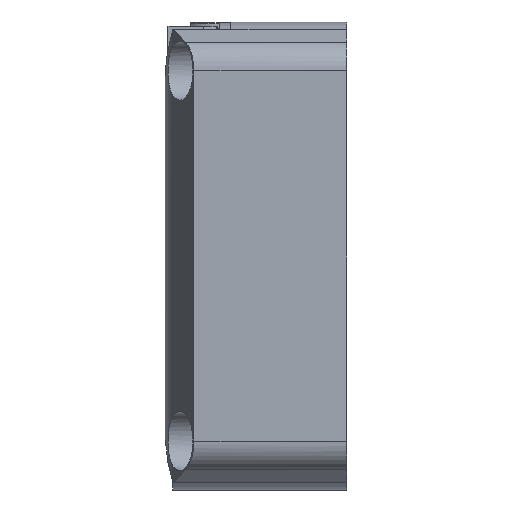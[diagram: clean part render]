
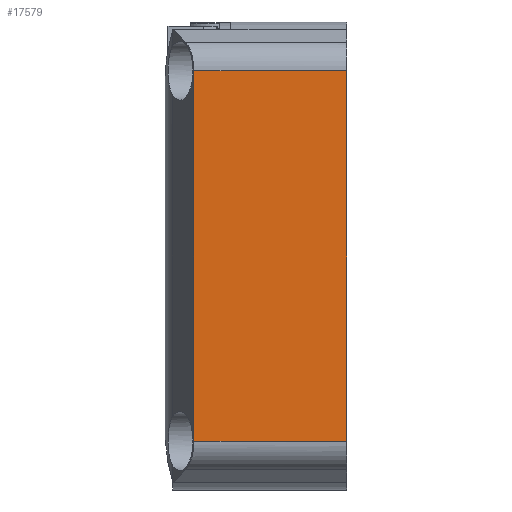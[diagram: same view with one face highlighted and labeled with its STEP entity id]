
A CAD part, left-side view. The second image highlights one B-rep face of the part: STEP entity #17579.
In plain terms, the highlighted planar face has unit normal (-1, 0, 0).
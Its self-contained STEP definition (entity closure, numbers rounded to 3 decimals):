
#4723 = DIRECTION ( 'NONE',  ( 0., 0., 1. ) ) ;
#5554 = LINE ( 'NONE', #25757, #26439 ) ;
#5884 = PLANE ( 'NONE',  #16095 ) ;
#8495 = VECTOR ( 'NONE', #19172, 1000. ) ;
#9718 = ORIENTED_EDGE ( 'NONE', *, *, #35931, .F. ) ;
#9734 = LINE ( 'NONE', #23144, #8495 ) ;
#12482 = EDGE_LOOP ( 'NONE', ( #27686, #40427, #25739, #9718 ) ) ;
#13734 = EDGE_CURVE ( 'NONE', #48487, #29598, #35512, .T. ) ;
#16095 = AXIS2_PLACEMENT_3D ( 'NONE', #21596, #49141, #25596 ) ;
#17518 = CARTESIAN_POINT ( 'NONE',  ( -17., 10.95, 13. ) ) ;
#17579 = ADVANCED_FACE ( 'NONE', ( #49753 ), #5884, .T. ) ;
#17867 = EDGE_CURVE ( 'NONE', #20073, #29598, #9734, .T. ) ;
#19172 = DIRECTION ( 'NONE',  ( 0., 0., -1. ) ) ;
#20073 = VERTEX_POINT ( 'NONE', #49781 ) ;
#21596 = CARTESIAN_POINT ( 'NONE',  ( -17., 13., -13.5 ) ) ;
#21945 = DIRECTION ( 'NONE',  ( 0., -1., 0. ) ) ;
#22600 = DIRECTION ( 'NONE',  ( 0., -1., 0. ) ) ;
#23144 = CARTESIAN_POINT ( 'NONE',  ( -17., 0., -13.5 ) ) ;
#24182 = LINE ( 'NONE', #32182, #34681 ) ;
#24436 = CARTESIAN_POINT ( 'NONE',  ( -17., 10.95, -13.5 ) ) ;
#25596 = DIRECTION ( 'NONE',  ( 0., 0., 1. ) ) ;
#25739 = ORIENTED_EDGE ( 'NONE', *, *, #17867, .F. ) ;
#25757 = CARTESIAN_POINT ( 'NONE',  ( -17., 13., 13. ) ) ;
#26439 = VECTOR ( 'NONE', #21945, 1000. ) ;
#27686 = ORIENTED_EDGE ( 'NONE', *, *, #34884, .F. ) ;
#29041 = CARTESIAN_POINT ( 'NONE',  ( -17., 0., -13.5 ) ) ;
#29598 = VERTEX_POINT ( 'NONE', #29041 ) ;
#32182 = CARTESIAN_POINT ( 'NONE',  ( -17., 10.95, -17. ) ) ;
#34681 = VECTOR ( 'NONE', #4723, 1000. ) ;
#34884 = EDGE_CURVE ( 'NONE', #48487, #42961, #24182, .T. ) ;
#35512 = LINE ( 'NONE', #46190, #39210 ) ;
#35931 = EDGE_CURVE ( 'NONE', #42961, #20073, #5554, .T. ) ;
#39210 = VECTOR ( 'NONE', #22600, 1000. ) ;
#40427 = ORIENTED_EDGE ( 'NONE', *, *, #13734, .T. ) ;
#42961 = VERTEX_POINT ( 'NONE', #17518 ) ;
#46190 = CARTESIAN_POINT ( 'NONE',  ( -17., 13., -13.5 ) ) ;
#48487 = VERTEX_POINT ( 'NONE', #24436 ) ;
#49141 = DIRECTION ( 'NONE',  ( -1., 0., 0. ) ) ;
#49753 = FACE_OUTER_BOUND ( 'NONE', #12482, .T. ) ;
#49781 = CARTESIAN_POINT ( 'NONE',  ( -17., 0., 13. ) ) ;
